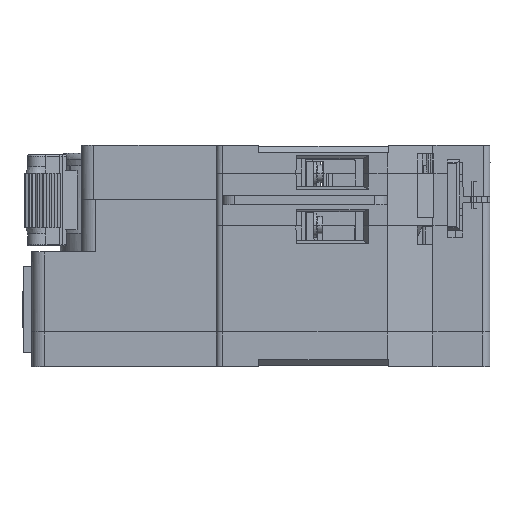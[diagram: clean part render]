
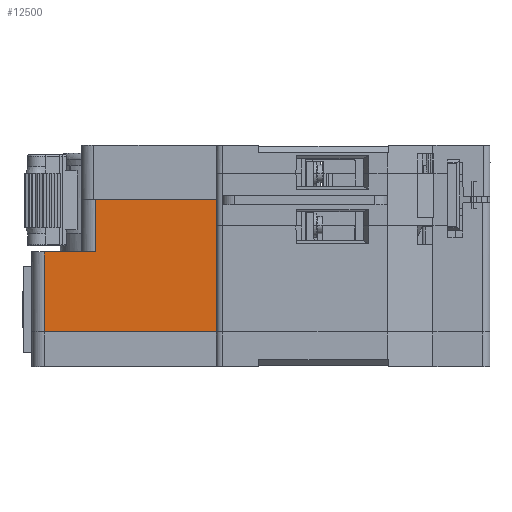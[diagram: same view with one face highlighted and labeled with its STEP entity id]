
A CAD part, left-side view. The second image highlights one B-rep face of the part: STEP entity #12500.
In plain terms, the highlighted planar face has unit normal (-1, 0, 0).
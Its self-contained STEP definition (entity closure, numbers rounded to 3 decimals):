
#793 = ORIENTED_EDGE ( 'NONE', *, *, #102673, .T. ) ;
#2358 = VECTOR ( 'NONE', #13052, 1000. ) ;
#3799 = VERTEX_POINT ( 'NONE', #19243 ) ;
#4075 = ORIENTED_EDGE ( 'NONE', *, *, #61485, .T. ) ;
#10482 = ORIENTED_EDGE ( 'NONE', *, *, #68293, .F. ) ;
#11075 = LINE ( 'NONE', #15983, #26360 ) ;
#12500 = ADVANCED_FACE ( 'NONE', ( #48988 ), #17645, .T. ) ;
#13052 = DIRECTION ( 'NONE',  ( 0., 1., 0. ) ) ;
#13149 = CARTESIAN_POINT ( 'NONE',  ( -77.584, -24.412, -4.2 ) ) ;
#15562 = DIRECTION ( 'NONE',  ( 0., 0., 1. ) ) ;
#15786 = LINE ( 'NONE', #71849, #36712 ) ;
#15951 = CARTESIAN_POINT ( 'NONE',  ( -77.584, -52.162, -3. ) ) ;
#15983 = CARTESIAN_POINT ( 'NONE',  ( -77.584, -24.412, 59.617 ) ) ;
#17645 = PLANE ( 'NONE',  #46080 ) ;
#19243 = CARTESIAN_POINT ( 'NONE',  ( -77.584, -52.162, -17.1 ) ) ;
#26197 = ORIENTED_EDGE ( 'NONE', *, *, #91052, .T. ) ;
#26360 = VECTOR ( 'NONE', #112623, 1000. ) ;
#28282 = VECTOR ( 'NONE', #37988, 1000. ) ;
#31455 = EDGE_LOOP ( 'NONE', ( #100627, #67433, #10482, #26197, #115816, #4075, #101983, #793 ) ) ;
#31965 = LINE ( 'NONE', #32111, #90779 ) ;
#32111 = CARTESIAN_POINT ( 'NONE',  ( -77.584, -54.462, -3. ) ) ;
#32487 = CARTESIAN_POINT ( 'NONE',  ( -77.584, -59.362, -17.1 ) ) ;
#32928 = CARTESIAN_POINT ( 'NONE',  ( -77.584, -24.412, -17.1 ) ) ;
#34042 = VERTEX_POINT ( 'NONE', #13149 ) ;
#36712 = VECTOR ( 'NONE', #107484, 1000. ) ;
#36995 = DIRECTION ( 'NONE',  ( 0., 0., -1. ) ) ;
#37233 = LINE ( 'NONE', #93979, #2358 ) ;
#37988 = DIRECTION ( 'NONE',  ( 0., 1., 0. ) ) ;
#39031 = CARTESIAN_POINT ( 'NONE',  ( -77.584, -54.462, 4.2 ) ) ;
#39203 = VERTEX_POINT ( 'NONE', #39031 ) ;
#40783 = LINE ( 'NONE', #81409, #28282 ) ;
#43267 = VERTEX_POINT ( 'NONE', #98136 ) ;
#43876 = CARTESIAN_POINT ( 'NONE',  ( -77.584, -54.462, 0. ) ) ;
#46080 = AXIS2_PLACEMENT_3D ( 'NONE', #89177, #61780, #79777 ) ;
#48948 = DIRECTION ( 'NONE',  ( 0., 0., 1. ) ) ;
#48988 = FACE_OUTER_BOUND ( 'NONE', #31455, .T. ) ;
#49246 = EDGE_CURVE ( 'NONE', #39203, #93746, #37233, .T. ) ;
#55254 = VERTEX_POINT ( 'NONE', #32928 ) ;
#61485 = EDGE_CURVE ( 'NONE', #104689, #39203, #31965, .T. ) ;
#61780 = DIRECTION ( 'NONE',  ( -1., 0., 0. ) ) ;
#64115 = CARTESIAN_POINT ( 'NONE',  ( -77.584, -32.612, 4.2 ) ) ;
#66195 = EDGE_CURVE ( 'NONE', #43267, #104689, #15786, .T. ) ;
#67433 = ORIENTED_EDGE ( 'NONE', *, *, #79380, .F. ) ;
#68293 = EDGE_CURVE ( 'NONE', #3799, #55254, #84447, .T. ) ;
#71849 = CARTESIAN_POINT ( 'NONE',  ( -77.584, -22.412, 0. ) ) ;
#72446 = LINE ( 'NONE', #15951, #90672 ) ;
#74804 = CARTESIAN_POINT ( 'NONE',  ( -77.584, -32.612, -4.2 ) ) ;
#74896 = LINE ( 'NONE', #80779, #100117 ) ;
#79380 = EDGE_CURVE ( 'NONE', #55254, #34042, #11075, .T. ) ;
#79777 = DIRECTION ( 'NONE',  ( 0., 0., 1. ) ) ;
#80779 = CARTESIAN_POINT ( 'NONE',  ( -77.584, -32.612, -3. ) ) ;
#81409 = CARTESIAN_POINT ( 'NONE',  ( -77.584, -22.412, -4.2 ) ) ;
#83407 = EDGE_CURVE ( 'NONE', #109666, #34042, #40783, .T. ) ;
#84447 = LINE ( 'NONE', #32487, #95726 ) ;
#89177 = CARTESIAN_POINT ( 'NONE',  ( -77.584, -22.412, -3. ) ) ;
#90672 = VECTOR ( 'NONE', #15562, 1000. ) ;
#90779 = VECTOR ( 'NONE', #48948, 1000. ) ;
#91052 = EDGE_CURVE ( 'NONE', #3799, #43267, #72446, .T. ) ;
#93746 = VERTEX_POINT ( 'NONE', #64115 ) ;
#93979 = CARTESIAN_POINT ( 'NONE',  ( -77.584, -22.412, 4.2 ) ) ;
#95726 = VECTOR ( 'NONE', #103721, 1000. ) ;
#98136 = CARTESIAN_POINT ( 'NONE',  ( -77.584, -52.162, 0. ) ) ;
#100117 = VECTOR ( 'NONE', #36995, 1000. ) ;
#100627 = ORIENTED_EDGE ( 'NONE', *, *, #83407, .T. ) ;
#101983 = ORIENTED_EDGE ( 'NONE', *, *, #49246, .T. ) ;
#102673 = EDGE_CURVE ( 'NONE', #93746, #109666, #74896, .T. ) ;
#103721 = DIRECTION ( 'NONE',  ( 0., 1., 0. ) ) ;
#104689 = VERTEX_POINT ( 'NONE', #43876 ) ;
#107484 = DIRECTION ( 'NONE',  ( 0., -1., 0. ) ) ;
#109666 = VERTEX_POINT ( 'NONE', #74804 ) ;
#112623 = DIRECTION ( 'NONE',  ( 0., 0., 1. ) ) ;
#115816 = ORIENTED_EDGE ( 'NONE', *, *, #66195, .T. ) ;
